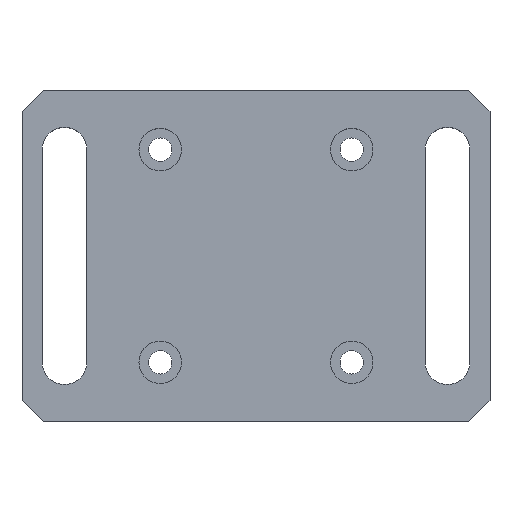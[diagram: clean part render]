
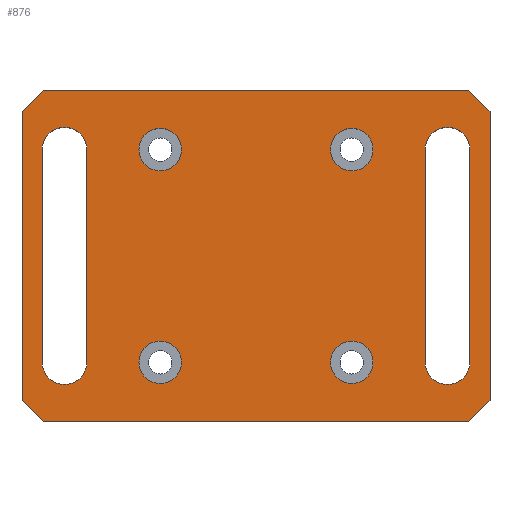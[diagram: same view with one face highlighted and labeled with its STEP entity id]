
A CAD part, top view. The second image highlights one B-rep face of the part: STEP entity #876.
In plain terms, the highlighted planar face has unit normal (0, 0, 1).
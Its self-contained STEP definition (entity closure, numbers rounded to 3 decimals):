
#70=CARTESIAN_POINT('Vertex',(-55.,-34.,10.)) ;
#73=CARTESIAN_POINT('Line Origine',(-55.,0.,10.)) ;
#77=CARTESIAN_POINT('Vertex',(-55.,34.,10.)) ;
#103=CARTESIAN_POINT('Vertex',(50.,-39.,10.)) ;
#106=CARTESIAN_POINT('Line Origine',(0.,-39.,10.)) ;
#110=CARTESIAN_POINT('Vertex',(-50.,-39.,10.)) ;
#137=CARTESIAN_POINT('Line Origine',(55.,0.,10.)) ;
#141=CARTESIAN_POINT('Vertex',(55.,-34.,10.)) ;
#143=CARTESIAN_POINT('Vertex',(55.,34.,10.)) ;
#183=CARTESIAN_POINT('Vertex',(-50.,39.,10.)) ;
#186=CARTESIAN_POINT('Line Origine',(0.,39.,10.)) ;
#190=CARTESIAN_POINT('Vertex',(50.,39.,10.)) ;
#230=CARTESIAN_POINT('Vertex',(-39.75,-25.,10.)) ;
#233=CARTESIAN_POINT('Line Origine',(-39.75,0.,10.)) ;
#237=CARTESIAN_POINT('Vertex',(-39.75,25.,10.)) ;
#264=CARTESIAN_POINT('Axis2P3D Location',(-45.,25.,10.)) ;
#268=CARTESIAN_POINT('Vertex',(-50.25,25.,10.)) ;
#295=CARTESIAN_POINT('Line Origine',(-50.25,0.,10.)) ;
#299=CARTESIAN_POINT('Vertex',(-50.25,-25.,10.)) ;
#324=CARTESIAN_POINT('Axis2P3D Location',(-45.,-25.,10.)) ;
#354=CARTESIAN_POINT('Vertex',(50.25,-25.,10.)) ;
#357=CARTESIAN_POINT('Line Origine',(50.25,0.,10.)) ;
#361=CARTESIAN_POINT('Vertex',(50.25,25.,10.)) ;
#388=CARTESIAN_POINT('Axis2P3D Location',(45.,25.,10.)) ;
#392=CARTESIAN_POINT('Vertex',(39.75,25.,10.)) ;
#419=CARTESIAN_POINT('Line Origine',(39.75,0.,10.)) ;
#423=CARTESIAN_POINT('Vertex',(39.75,-25.,10.)) ;
#448=CARTESIAN_POINT('Axis2P3D Location',(45.,-25.,10.)) ;
#465=CARTESIAN_POINT('Line Origine',(-52.5,36.5,10.)) ;
#487=CARTESIAN_POINT('Line Origine',(52.5,36.5,10.)) ;
#509=CARTESIAN_POINT('Line Origine',(52.5,-36.5,10.)) ;
#531=CARTESIAN_POINT('Line Origine',(-52.5,-36.5,10.)) ;
#777=CARTESIAN_POINT('Axis2P3D Location',(0.,0.,10.)) ;
#804=CARTESIAN_POINT('Axis2P3D Location',(-22.5,-25.,10.)) ;
#808=CARTESIAN_POINT('Vertex',(-17.5,-25.,10.)) ;
#810=CARTESIAN_POINT('Vertex',(-27.5,-25.,10.)) ;
#813=CARTESIAN_POINT('Axis2P3D Location',(-22.5,-25.,10.)) ;
#822=CARTESIAN_POINT('Axis2P3D Location',(22.5,-25.,10.)) ;
#826=CARTESIAN_POINT('Vertex',(27.5,-25.,10.)) ;
#828=CARTESIAN_POINT('Vertex',(17.5,-25.,10.)) ;
#831=CARTESIAN_POINT('Axis2P3D Location',(22.5,-25.,10.)) ;
#840=CARTESIAN_POINT('Axis2P3D Location',(-22.5,25.,10.)) ;
#844=CARTESIAN_POINT('Vertex',(-17.5,25.,10.)) ;
#846=CARTESIAN_POINT('Vertex',(-27.5,25.,10.)) ;
#849=CARTESIAN_POINT('Axis2P3D Location',(-22.5,25.,10.)) ;
#858=CARTESIAN_POINT('Axis2P3D Location',(22.5,25.,10.)) ;
#862=CARTESIAN_POINT('Vertex',(27.5,25.,10.)) ;
#864=CARTESIAN_POINT('Vertex',(17.5,25.,10.)) ;
#867=CARTESIAN_POINT('Axis2P3D Location',(22.5,25.,10.)) ;
#74=DIRECTION('Vector Direction',(0.,-1.,0.)) ;
#107=DIRECTION('Vector Direction',(-1.,0.,0.)) ;
#138=DIRECTION('Vector Direction',(0.,1.,0.)) ;
#187=DIRECTION('Vector Direction',(1.,0.,0.)) ;
#234=DIRECTION('Vector Direction',(0.,-1.,0.)) ;
#265=DIRECTION('Axis2P3D Direction',(0.,0.,1.)) ;
#296=DIRECTION('Vector Direction',(0.,1.,0.)) ;
#325=DIRECTION('Axis2P3D Direction',(0.,0.,1.)) ;
#358=DIRECTION('Vector Direction',(0.,-1.,0.)) ;
#389=DIRECTION('Axis2P3D Direction',(0.,0.,1.)) ;
#420=DIRECTION('Vector Direction',(0.,1.,0.)) ;
#449=DIRECTION('Axis2P3D Direction',(0.,0.,1.)) ;
#466=DIRECTION('Vector Direction',(-0.707,-0.707,0.)) ;
#488=DIRECTION('Vector Direction',(0.707,-0.707,0.)) ;
#510=DIRECTION('Vector Direction',(0.707,0.707,0.)) ;
#532=DIRECTION('Vector Direction',(-0.707,0.707,0.)) ;
#778=DIRECTION('Axis2P3D Direction',(0.,0.,1.)) ;
#779=DIRECTION('Axis2P3D XDirection',(1.,0.,0.)) ;
#805=DIRECTION('Axis2P3D Direction',(0.,0.,1.)) ;
#814=DIRECTION('Axis2P3D Direction',(0.,0.,1.)) ;
#823=DIRECTION('Axis2P3D Direction',(0.,0.,1.)) ;
#832=DIRECTION('Axis2P3D Direction',(0.,0.,1.)) ;
#841=DIRECTION('Axis2P3D Direction',(0.,0.,1.)) ;
#850=DIRECTION('Axis2P3D Direction',(0.,0.,1.)) ;
#859=DIRECTION('Axis2P3D Direction',(0.,0.,1.)) ;
#868=DIRECTION('Axis2P3D Direction',(0.,0.,1.)) ;
#266=AXIS2_PLACEMENT_3D('Circle Axis2P3D',#264,#265,$) ;
#326=AXIS2_PLACEMENT_3D('Circle Axis2P3D',#324,#325,$) ;
#390=AXIS2_PLACEMENT_3D('Circle Axis2P3D',#388,#389,$) ;
#450=AXIS2_PLACEMENT_3D('Circle Axis2P3D',#448,#449,$) ;
#780=AXIS2_PLACEMENT_3D('Plane Axis2P3D',#777,#778,#779) ;
#806=AXIS2_PLACEMENT_3D('Circle Axis2P3D',#804,#805,$) ;
#815=AXIS2_PLACEMENT_3D('Circle Axis2P3D',#813,#814,$) ;
#824=AXIS2_PLACEMENT_3D('Circle Axis2P3D',#822,#823,$) ;
#833=AXIS2_PLACEMENT_3D('Circle Axis2P3D',#831,#832,$) ;
#842=AXIS2_PLACEMENT_3D('Circle Axis2P3D',#840,#841,$) ;
#851=AXIS2_PLACEMENT_3D('Circle Axis2P3D',#849,#850,$) ;
#860=AXIS2_PLACEMENT_3D('Circle Axis2P3D',#858,#859,$) ;
#869=AXIS2_PLACEMENT_3D('Circle Axis2P3D',#867,#868,$) ;
#783=ORIENTED_EDGE('',*,*,#79,.T.) ;
#784=ORIENTED_EDGE('',*,*,#535,.F.) ;
#785=ORIENTED_EDGE('',*,*,#112,.T.) ;
#786=ORIENTED_EDGE('',*,*,#513,.F.) ;
#787=ORIENTED_EDGE('',*,*,#145,.T.) ;
#788=ORIENTED_EDGE('',*,*,#491,.F.) ;
#789=ORIENTED_EDGE('',*,*,#192,.T.) ;
#790=ORIENTED_EDGE('',*,*,#469,.F.) ;
#793=ORIENTED_EDGE('',*,*,#452,.F.) ;
#794=ORIENTED_EDGE('',*,*,#425,.F.) ;
#795=ORIENTED_EDGE('',*,*,#394,.F.) ;
#796=ORIENTED_EDGE('',*,*,#363,.F.) ;
#799=ORIENTED_EDGE('',*,*,#328,.F.) ;
#800=ORIENTED_EDGE('',*,*,#301,.F.) ;
#801=ORIENTED_EDGE('',*,*,#270,.F.) ;
#802=ORIENTED_EDGE('',*,*,#239,.F.) ;
#819=ORIENTED_EDGE('',*,*,#812,.F.) ;
#820=ORIENTED_EDGE('',*,*,#817,.F.) ;
#837=ORIENTED_EDGE('',*,*,#830,.F.) ;
#838=ORIENTED_EDGE('',*,*,#835,.F.) ;
#855=ORIENTED_EDGE('',*,*,#848,.F.) ;
#856=ORIENTED_EDGE('',*,*,#853,.F.) ;
#873=ORIENTED_EDGE('',*,*,#866,.F.) ;
#874=ORIENTED_EDGE('',*,*,#871,.F.) ;
#797=FACE_BOUND('',#792,.T.) ;
#803=FACE_BOUND('',#798,.T.) ;
#821=FACE_BOUND('',#818,.T.) ;
#839=FACE_BOUND('',#836,.T.) ;
#857=FACE_BOUND('',#854,.T.) ;
#875=FACE_BOUND('',#872,.T.) ;
#75=VECTOR('Line Direction',#74,1.) ;
#108=VECTOR('Line Direction',#107,1.) ;
#139=VECTOR('Line Direction',#138,1.) ;
#188=VECTOR('Line Direction',#187,1.) ;
#235=VECTOR('Line Direction',#234,1.) ;
#297=VECTOR('Line Direction',#296,1.) ;
#359=VECTOR('Line Direction',#358,1.) ;
#421=VECTOR('Line Direction',#420,1.) ;
#467=VECTOR('Line Direction',#466,1.) ;
#489=VECTOR('Line Direction',#488,1.) ;
#511=VECTOR('Line Direction',#510,1.) ;
#533=VECTOR('Line Direction',#532,1.) ;
#876=ADVANCED_FACE('\X2\96F64EF651E04F554F53\X0\',(#791,#797,#803,#821,#839,#857,#875),#781,.T.) ;
#267=CIRCLE('generated circle',#266,5.25) ;
#327=CIRCLE('generated circle',#326,5.25) ;
#391=CIRCLE('generated circle',#390,5.25) ;
#451=CIRCLE('generated circle',#450,5.25) ;
#807=CIRCLE('generated circle',#806,5.) ;
#816=CIRCLE('generated circle',#815,5.) ;
#825=CIRCLE('generated circle',#824,5.) ;
#834=CIRCLE('generated circle',#833,5.) ;
#843=CIRCLE('generated circle',#842,5.) ;
#852=CIRCLE('generated circle',#851,5.) ;
#861=CIRCLE('generated circle',#860,5.) ;
#870=CIRCLE('generated circle',#869,5.) ;
#79=EDGE_CURVE('',#78,#71,#76,.T.) ;
#112=EDGE_CURVE('',#111,#104,#109,.F.) ;
#145=EDGE_CURVE('',#142,#144,#140,.T.) ;
#192=EDGE_CURVE('',#191,#184,#189,.F.) ;
#239=EDGE_CURVE('',#231,#238,#236,.F.) ;
#270=EDGE_CURVE('',#238,#269,#267,.T.) ;
#301=EDGE_CURVE('',#269,#300,#298,.F.) ;
#328=EDGE_CURVE('',#300,#231,#327,.T.) ;
#363=EDGE_CURVE('',#355,#362,#360,.F.) ;
#394=EDGE_CURVE('',#362,#393,#391,.T.) ;
#425=EDGE_CURVE('',#393,#424,#422,.F.) ;
#452=EDGE_CURVE('',#424,#355,#451,.T.) ;
#469=EDGE_CURVE('',#78,#184,#468,.F.) ;
#491=EDGE_CURVE('',#191,#144,#490,.T.) ;
#513=EDGE_CURVE('',#142,#104,#512,.F.) ;
#535=EDGE_CURVE('',#111,#71,#534,.T.) ;
#812=EDGE_CURVE('',#809,#811,#807,.T.) ;
#817=EDGE_CURVE('',#811,#809,#816,.T.) ;
#830=EDGE_CURVE('',#827,#829,#825,.T.) ;
#835=EDGE_CURVE('',#829,#827,#834,.T.) ;
#848=EDGE_CURVE('',#845,#847,#843,.T.) ;
#853=EDGE_CURVE('',#847,#845,#852,.T.) ;
#866=EDGE_CURVE('',#863,#865,#861,.T.) ;
#871=EDGE_CURVE('',#865,#863,#870,.T.) ;
#782=EDGE_LOOP('',(#783,#784,#785,#786,#787,#788,#789,#790)) ;
#792=EDGE_LOOP('',(#793,#794,#795,#796)) ;
#798=EDGE_LOOP('',(#799,#800,#801,#802)) ;
#818=EDGE_LOOP('',(#819,#820)) ;
#836=EDGE_LOOP('',(#837,#838)) ;
#854=EDGE_LOOP('',(#855,#856)) ;
#872=EDGE_LOOP('',(#873,#874)) ;
#791=FACE_OUTER_BOUND('',#782,.T.) ;
#76=LINE('Line',#73,#75) ;
#109=LINE('Line',#106,#108) ;
#140=LINE('Line',#137,#139) ;
#189=LINE('Line',#186,#188) ;
#236=LINE('Line',#233,#235) ;
#298=LINE('Line',#295,#297) ;
#360=LINE('Line',#357,#359) ;
#422=LINE('Line',#419,#421) ;
#468=LINE('Line',#465,#467) ;
#490=LINE('Line',#487,#489) ;
#512=LINE('Line',#509,#511) ;
#534=LINE('Line',#531,#533) ;
#781=PLANE('Plane',#780) ;
#71=VERTEX_POINT('',#70) ;
#78=VERTEX_POINT('',#77) ;
#104=VERTEX_POINT('',#103) ;
#111=VERTEX_POINT('',#110) ;
#142=VERTEX_POINT('',#141) ;
#144=VERTEX_POINT('',#143) ;
#184=VERTEX_POINT('',#183) ;
#191=VERTEX_POINT('',#190) ;
#231=VERTEX_POINT('',#230) ;
#238=VERTEX_POINT('',#237) ;
#269=VERTEX_POINT('',#268) ;
#300=VERTEX_POINT('',#299) ;
#355=VERTEX_POINT('',#354) ;
#362=VERTEX_POINT('',#361) ;
#393=VERTEX_POINT('',#392) ;
#424=VERTEX_POINT('',#423) ;
#809=VERTEX_POINT('',#808) ;
#811=VERTEX_POINT('',#810) ;
#827=VERTEX_POINT('',#826) ;
#829=VERTEX_POINT('',#828) ;
#845=VERTEX_POINT('',#844) ;
#847=VERTEX_POINT('',#846) ;
#863=VERTEX_POINT('',#862) ;
#865=VERTEX_POINT('',#864) ;
